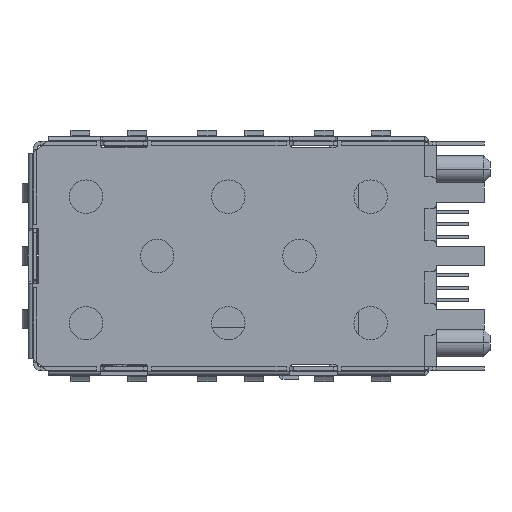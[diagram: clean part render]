
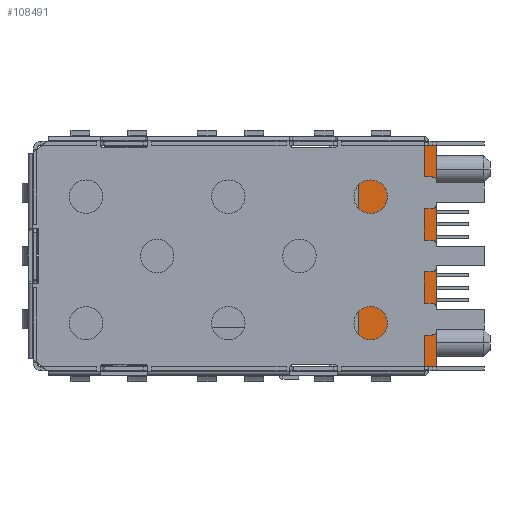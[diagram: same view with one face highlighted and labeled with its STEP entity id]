
A CAD part, left-side view. The second image highlights one B-rep face of the part: STEP entity #108491.
In plain terms, the highlighted planar face has unit normal (-1, 0, 0).
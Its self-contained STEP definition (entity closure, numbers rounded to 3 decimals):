
#467=DIRECTION('',(0.,0.,1.));
#468=VECTOR('',#467,13.95);
#469=CARTESIAN_POINT('',(0.8,3.05,-16.025));
#470=LINE('',#469,#468);
#15566=DIRECTION('',(0.,1.,0.));
#15567=VECTOR('',#15566,2.05);
#15568=CARTESIAN_POINT('',(0.8,3.05,-16.025));
#15569=LINE('',#15568,#15567);
#15570=DIRECTION('',(0.,0.,1.));
#15571=VECTOR('',#15570,2.525);
#15572=CARTESIAN_POINT('',(0.8,5.1,-16.025));
#15573=LINE('',#15572,#15571);
#15574=DIRECTION('',(0.,1.,0.));
#15575=VECTOR('',#15574,1.);
#15576=CARTESIAN_POINT('',(0.8,5.1,-13.5));
#15577=LINE('',#15576,#15575);
#15578=DIRECTION('',(0.,0.,-1.));
#15579=VECTOR('',#15578,2.525);
#15580=CARTESIAN_POINT('',(0.8,6.1,-13.5));
#15581=LINE('',#15580,#15579);
#15582=DIRECTION('',(0.,1.,0.));
#15583=VECTOR('',#15582,1.845);
#15584=CARTESIAN_POINT('',(0.8,6.1,-16.025));
#15585=LINE('',#15584,#15583);
#15586=DIRECTION('',(0.,-1.,0.));
#15587=VECTOR('',#15586,1.845);
#15588=CARTESIAN_POINT('',(0.8,7.945,-2.075));
#15589=LINE('',#15588,#15587);
#15590=DIRECTION('',(0.,-1.,0.));
#15591=VECTOR('',#15590,2.05);
#15592=CARTESIAN_POINT('',(0.8,5.1,-2.075));
#15593=LINE('',#15592,#15591);
#55570=DIRECTION('',(0.,0.,-1.));
#55571=VECTOR('',#55570,13.95);
#55572=CARTESIAN_POINT('',(0.8,7.945,-2.075));
#55573=LINE('',#55572,#55571);
#55856=DIRECTION('',(0.,0.,1.));
#55857=VECTOR('',#55856,2.525);
#55858=CARTESIAN_POINT('',(0.8,6.1,-4.6));
#55859=LINE('',#55858,#55857);
#55892=DIRECTION('',(0.,0.,-1.));
#55893=VECTOR('',#55892,2.525);
#55894=CARTESIAN_POINT('',(0.8,5.1,-2.075));
#55895=LINE('',#55894,#55893);
#55900=DIRECTION('',(0.,1.,0.));
#55901=VECTOR('',#55900,1.);
#55902=CARTESIAN_POINT('',(0.8,5.1,-4.6));
#55903=LINE('',#55902,#55901);
#67672=CARTESIAN_POINT('',(0.8,3.05,-16.025));
#67673=VERTEX_POINT('',#67672);
#67674=CARTESIAN_POINT('',(0.8,3.05,-2.075));
#67675=VERTEX_POINT('',#67674);
#71766=CARTESIAN_POINT('',(0.8,7.945,-16.025));
#71767=VERTEX_POINT('',#71766);
#71768=CARTESIAN_POINT('',(0.8,6.1,-16.025));
#71769=VERTEX_POINT('',#71768);
#71778=CARTESIAN_POINT('',(0.8,5.1,-16.025));
#71779=VERTEX_POINT('',#71778);
#71780=CARTESIAN_POINT('',(0.8,7.945,-2.075));
#71781=VERTEX_POINT('',#71780);
#71782=CARTESIAN_POINT('',(0.8,5.1,-2.075));
#71783=VERTEX_POINT('',#71782);
#71792=CARTESIAN_POINT('',(0.8,6.1,-2.075));
#71793=VERTEX_POINT('',#71792);
#71800=CARTESIAN_POINT('',(0.8,5.1,-13.5));
#71801=VERTEX_POINT('',#71800);
#71802=CARTESIAN_POINT('',(0.8,6.1,-13.5));
#71803=VERTEX_POINT('',#71802);
#71804=CARTESIAN_POINT('',(0.8,6.1,-4.6));
#71805=VERTEX_POINT('',#71804);
#71806=CARTESIAN_POINT('',(0.8,5.1,-4.6));
#71807=VERTEX_POINT('',#71806);
#108463=CARTESIAN_POINT('',(0.8,7.945,-2.05));
#108464=DIRECTION('',(-1.,0.,0.));
#108465=DIRECTION('',(0.,0.,-1.));
#108466=AXIS2_PLACEMENT_3D('',#108463,#108464,#108465);
#108467=PLANE('',#108466);
#108468=ORIENTED_EDGE('',*,*,#88873,.F.);
#108470=ORIENTED_EDGE('',*,*,#108469,.T.);
#108472=ORIENTED_EDGE('',*,*,#108471,.T.);
#108474=ORIENTED_EDGE('',*,*,#108473,.T.);
#108476=ORIENTED_EDGE('',*,*,#108475,.T.);
#108478=ORIENTED_EDGE('',*,*,#108477,.T.);
#108480=ORIENTED_EDGE('',*,*,#108479,.F.);
#108481=ORIENTED_EDGE('',*,*,#108446,.T.);
#108483=ORIENTED_EDGE('',*,*,#108482,.F.);
#108485=ORIENTED_EDGE('',*,*,#108484,.F.);
#108487=ORIENTED_EDGE('',*,*,#108486,.F.);
#108488=ORIENTED_EDGE('',*,*,#108434,.T.);
#108489=EDGE_LOOP('',(#108468,#108470,#108472,#108474,#108476,#108478,#108480,
#108481,#108483,#108485,#108487,#108488));
#108490=FACE_OUTER_BOUND('',#108489,.F.);
#88873=EDGE_CURVE('',#67673,#67675,#470,.T.);
#108434=EDGE_CURVE('',#71783,#67675,#15593,.T.);
#108446=EDGE_CURVE('',#71781,#71793,#15589,.T.);
#108469=EDGE_CURVE('',#67673,#71779,#15569,.T.);
#108471=EDGE_CURVE('',#71779,#71801,#15573,.T.);
#108473=EDGE_CURVE('',#71801,#71803,#15577,.T.);
#108475=EDGE_CURVE('',#71803,#71769,#15581,.T.);
#108477=EDGE_CURVE('',#71769,#71767,#15585,.T.);
#108479=EDGE_CURVE('',#71781,#71767,#55573,.T.);
#108482=EDGE_CURVE('',#71805,#71793,#55859,.T.);
#108484=EDGE_CURVE('',#71807,#71805,#55903,.T.);
#108486=EDGE_CURVE('',#71783,#71807,#55895,.T.);
#108491=ADVANCED_FACE('',(#108490),#108467,.T.);
